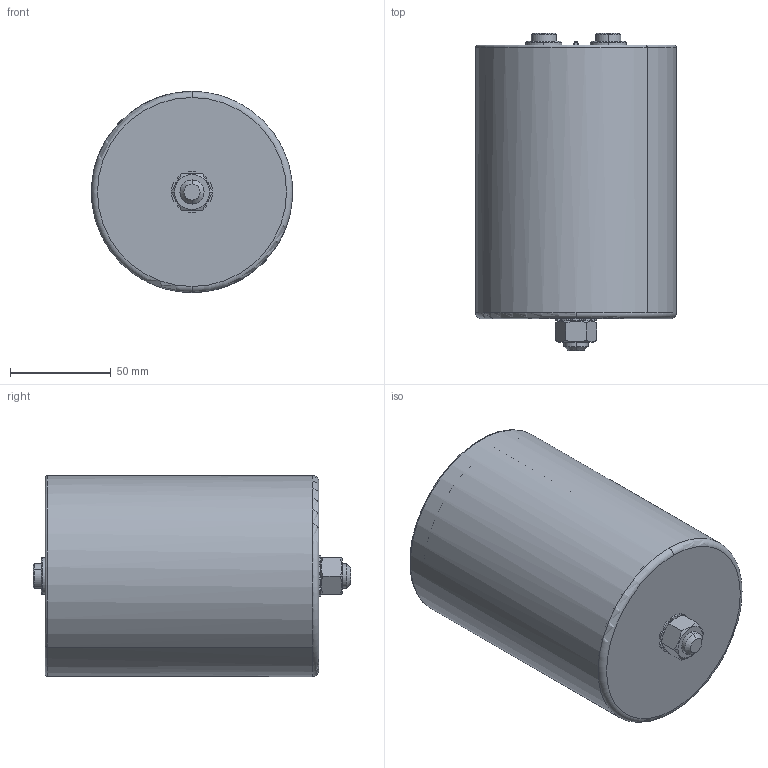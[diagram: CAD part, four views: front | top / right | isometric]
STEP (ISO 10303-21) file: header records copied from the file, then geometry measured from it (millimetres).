
FILE_DESCRIPTION (( 'STEP AP214' ), '1' );
FILE_NAME ('B25694M Series D100 Hc136 Ht142.STEP', '2025-07-24T06:51:39', ( '' ), ( '' ), 'SwSTEP 2.0', 'SolidWorks 2019', '' );
FILE_SCHEMA (( 'AUTOMOTIVE_DESIGN' ));
Length unit declared in the file: millimetre
Products named in the file (1): B25694M Series D100 Hc136 Ht142
Bounding box: 99.91 x 158 x 100 mm (x, y, z)
Volume: 105128.8 mm3; surface area: 133173.4 mm2
Topology: 1 solids, 9 shells, 395 faces, 1004 edges, 639 vertices
Faces by surface type: plane 183, cylinder 144, cone 50, torus 18
Entity records: 12333 total; most frequent: CARTESIAN_POINT 2737, DIRECTION 2045, ORIENTED_EDGE 2000, EDGE_CURVE 1000, AXIS2_PLACEMENT_3D 791, VERTEX_POINT 639, VECTOR 463, LINE 463
